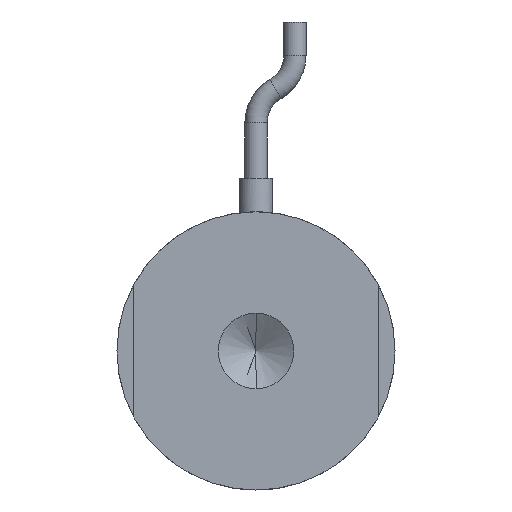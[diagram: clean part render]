
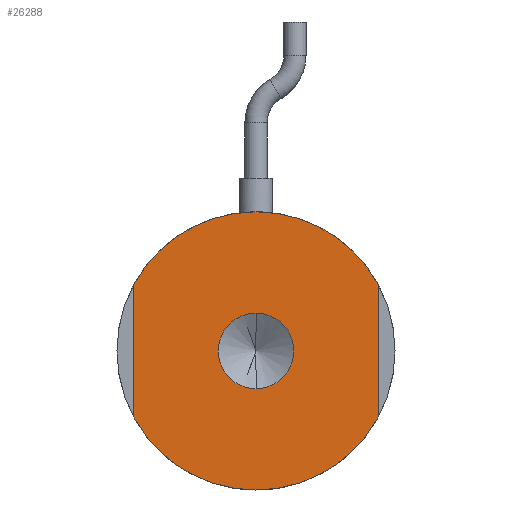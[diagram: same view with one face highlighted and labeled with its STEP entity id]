
A CAD part, front view. The second image highlights one B-rep face of the part: STEP entity #26288.
In plain terms, the highlighted planar face has unit normal (0, -1, 0).
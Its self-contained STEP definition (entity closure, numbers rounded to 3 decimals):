
#512 = CARTESIAN_POINT ( 'NONE',  ( -11., 0., 5.937 ) ) ;
#2211 = CIRCLE ( 'NONE', #22314, 12.5 ) ;
#2962 = ORIENTED_EDGE ( 'NONE', *, *, #40395, .F. ) ;
#3047 = CARTESIAN_POINT ( 'NONE',  ( 0., 0., 0. ) ) ;
#3624 = VERTEX_POINT ( 'NONE', #512 ) ;
#3834 = CARTESIAN_POINT ( 'NONE',  ( -11., 0., 0. ) ) ;
#3987 = DIRECTION ( 'NONE',  ( 0., 0., 1. ) ) ;
#4245 = FACE_BOUND ( 'NONE', #43282, .T. ) ;
#5249 = CARTESIAN_POINT ( 'NONE',  ( 0., 0., 0. ) ) ;
#5882 = DIRECTION ( 'NONE',  ( 0., -1., 0. ) ) ;
#6029 = EDGE_CURVE ( 'NONE', #31340, #17106, #17816, .T. ) ;
#6079 = CARTESIAN_POINT ( 'NONE',  ( 0., 0., 0. ) ) ;
#6225 = AXIS2_PLACEMENT_3D ( 'NONE', #3047, #27447, #6573 ) ;
#6236 = DIRECTION ( 'NONE',  ( 0., 1., 0. ) ) ;
#6573 = DIRECTION ( 'NONE',  ( 0., 0., 1. ) ) ;
#6651 = CARTESIAN_POINT ( 'NONE',  ( 11., 0., -5.937 ) ) ;
#7037 = CARTESIAN_POINT ( 'NONE',  ( 0., 0., 3.4 ) ) ;
#7388 = DIRECTION ( 'NONE',  ( 0., 1., 0. ) ) ;
#9434 = CIRCLE ( 'NONE', #28410, 12.5 ) ;
#9569 = DIRECTION ( 'NONE',  ( 0., 0., -1. ) ) ;
#10012 = VECTOR ( 'NONE', #3987, 1000. ) ;
#10556 = CARTESIAN_POINT ( 'NONE',  ( 0., 0., 0. ) ) ;
#10845 = VERTEX_POINT ( 'NONE', #30712 ) ;
#12340 = EDGE_CURVE ( 'NONE', #3624, #43090, #9434, .T. ) ;
#12741 = VERTEX_POINT ( 'NONE', #13396 ) ;
#13396 = CARTESIAN_POINT ( 'NONE',  ( 11., 0., 5.937 ) ) ;
#13509 = FACE_OUTER_BOUND ( 'NONE', #14761, .T. ) ;
#14078 = DIRECTION ( 'NONE',  ( 0., 0., 1. ) ) ;
#14163 = EDGE_CURVE ( 'NONE', #43748, #10845, #44874, .T. ) ;
#14307 = CARTESIAN_POINT ( 'NONE',  ( 11., 0., 0. ) ) ;
#14761 = EDGE_LOOP ( 'NONE', ( #31815, #39184, #44773, #2962, #24236, #42293 ) ) ;
#15763 = DIRECTION ( 'NONE',  ( 0., 0., 1. ) ) ;
#16180 = EDGE_CURVE ( 'NONE', #43090, #12741, #2211, .T. ) ;
#16712 = EDGE_CURVE ( 'NONE', #36535, #43748, #30628, .T. ) ;
#17106 = VERTEX_POINT ( 'NONE', #25640 ) ;
#17816 = CIRCLE ( 'NONE', #38534, 3.4 ) ;
#17817 = DIRECTION ( 'NONE',  ( 0., 0., -1. ) ) ;
#19298 = LINE ( 'NONE', #3834, #10012 ) ;
#19747 = CARTESIAN_POINT ( 'NONE',  ( 0., 0., 12.5 ) ) ;
#22314 = AXIS2_PLACEMENT_3D ( 'NONE', #27117, #6236, #30661 ) ;
#24236 = ORIENTED_EDGE ( 'NONE', *, *, #16180, .F. ) ;
#25135 = VECTOR ( 'NONE', #17817, 1000. ) ;
#25412 = ORIENTED_EDGE ( 'NONE', *, *, #6029, .F. ) ;
#25640 = CARTESIAN_POINT ( 'NONE',  ( 0., 0., -3.4 ) ) ;
#26288 = ADVANCED_FACE ( 'NONE', ( #4245, #13509 ), #33186, .F. ) ;
#26769 = CARTESIAN_POINT ( 'NONE',  ( 0., 0., 0. ) ) ;
#27117 = CARTESIAN_POINT ( 'NONE',  ( 0., 0., 0. ) ) ;
#27447 = DIRECTION ( 'NONE',  ( 0., 1., 0. ) ) ;
#28281 = CARTESIAN_POINT ( 'NONE',  ( 0., 0., 0. ) ) ;
#28410 = AXIS2_PLACEMENT_3D ( 'NONE', #28281, #7388, #31802 ) ;
#29297 = CARTESIAN_POINT ( 'NONE',  ( 0., 0., -12.5 ) ) ;
#30314 = DIRECTION ( 'NONE',  ( 0., 0., -1. ) ) ;
#30512 = DIRECTION ( 'NONE',  ( 0., -1., 0. ) ) ;
#30628 = CIRCLE ( 'NONE', #37813, 12.5 ) ;
#30661 = DIRECTION ( 'NONE',  ( 0., 0., 1. ) ) ;
#30712 = CARTESIAN_POINT ( 'NONE',  ( -11., 0., -5.937 ) ) ;
#30794 = AXIS2_PLACEMENT_3D ( 'NONE', #5249, #36665, #15763 ) ;
#31340 = VERTEX_POINT ( 'NONE', #7037 ) ;
#31802 = DIRECTION ( 'NONE',  ( 0., 0., 1. ) ) ;
#31815 = ORIENTED_EDGE ( 'NONE', *, *, #34136, .F. ) ;
#33149 = ORIENTED_EDGE ( 'NONE', *, *, #34912, .F. ) ;
#33186 = PLANE ( 'NONE',  #30794 ) ;
#34136 = EDGE_CURVE ( 'NONE', #10845, #3624, #19298, .T. ) ;
#34912 = EDGE_CURVE ( 'NONE', #17106, #31340, #38406, .T. ) ;
#35011 = DIRECTION ( 'NONE',  ( 0., 1., 0. ) ) ;
#36535 = VERTEX_POINT ( 'NONE', #6651 ) ;
#36619 = LINE ( 'NONE', #14307, #25135 ) ;
#36665 = DIRECTION ( 'NONE',  ( 0., 1., 0. ) ) ;
#37813 = AXIS2_PLACEMENT_3D ( 'NONE', #10556, #35011, #14078 ) ;
#38406 = CIRCLE ( 'NONE', #44946, 3.4 ) ;
#38534 = AXIS2_PLACEMENT_3D ( 'NONE', #6079, #30512, #9569 ) ;
#39184 = ORIENTED_EDGE ( 'NONE', *, *, #14163, .F. ) ;
#40395 = EDGE_CURVE ( 'NONE', #12741, #36535, #36619, .T. ) ;
#42293 = ORIENTED_EDGE ( 'NONE', *, *, #12340, .F. ) ;
#43090 = VERTEX_POINT ( 'NONE', #19747 ) ;
#43282 = EDGE_LOOP ( 'NONE', ( #33149, #25412 ) ) ;
#43748 = VERTEX_POINT ( 'NONE', #29297 ) ;
#44773 = ORIENTED_EDGE ( 'NONE', *, *, #16712, .F. ) ;
#44874 = CIRCLE ( 'NONE', #6225, 12.5 ) ;
#44946 = AXIS2_PLACEMENT_3D ( 'NONE', #26769, #5882, #30314 ) ;
